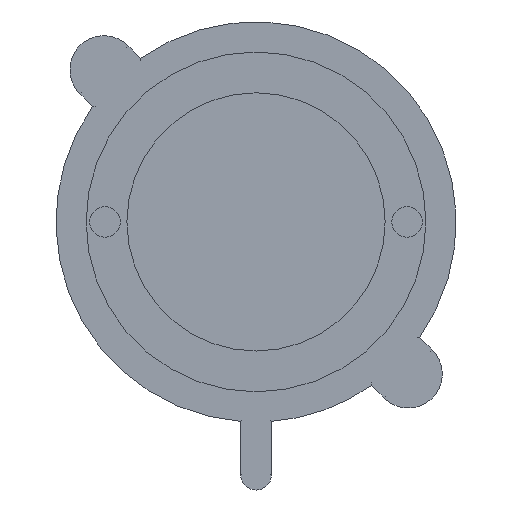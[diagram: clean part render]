
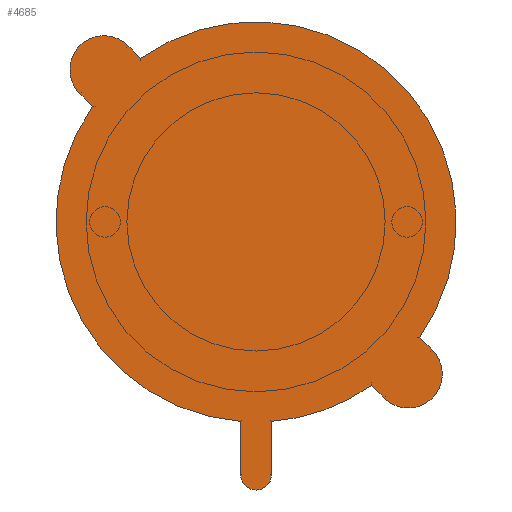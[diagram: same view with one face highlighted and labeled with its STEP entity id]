
A CAD part, top view. The second image highlights one B-rep face of the part: STEP entity #4685.
In plain terms, the highlighted planar face has unit normal (0, 0, 1).
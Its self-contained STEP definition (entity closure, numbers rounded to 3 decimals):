
#1031=LINE('',#20941,#1961);
#1033=LINE('',#20947,#1963);
#1046=LINE('',#21001,#1976);
#1049=LINE('',#21009,#1979);
#1051=LINE('',#21013,#1981);
#1053=LINE('',#21019,#1983);
#1961=VECTOR('',#17218,1.);
#1963=VECTOR('',#17226,1.);
#1976=VECTOR('',#17289,1.);
#1979=VECTOR('',#17298,1.);
#1981=VECTOR('',#17302,1.);
#1983=VECTOR('',#17310,1.);
#3030=FACE_OUTER_BOUND('',#6490,.T.);
#4685=ADVANCED_FACE('',(#3030),#5557,.T.);
#5557=PLANE('',#15811);
#6490=EDGE_LOOP('',(#7743,#7744,#7745,#7746,#7747,#7748,#7749,#7750,#7751,
#7752,#7753,#7754));
#7743=ORIENTED_EDGE('',*,*,#13171,.F.);
#7744=ORIENTED_EDGE('',*,*,#13173,.F.);
#7745=ORIENTED_EDGE('',*,*,#13174,.F.);
#7746=ORIENTED_EDGE('',*,*,#13146,.F.);
#7747=ORIENTED_EDGE('',*,*,#13201,.F.);
#7748=ORIENTED_EDGE('',*,*,#13199,.F.);
#7749=ORIENTED_EDGE('',*,*,#13197,.F.);
#7750=ORIENTED_EDGE('',*,*,#13144,.F.);
#7751=ORIENTED_EDGE('',*,*,#13203,.F.);
#7752=ORIENTED_EDGE('',*,*,#13205,.F.);
#7753=ORIENTED_EDGE('',*,*,#13206,.F.);
#7754=ORIENTED_EDGE('',*,*,#13150,.F.);
#11702=VERTEX_POINT('',#20862);
#11703=VERTEX_POINT('',#20864);
#11704=VERTEX_POINT('',#20871);
#11705=VERTEX_POINT('',#20872);
#11706=VERTEX_POINT('',#20886);
#11707=VERTEX_POINT('',#20888);
#11722=VERTEX_POINT('',#20940);
#11723=VERTEX_POINT('',#20944);
#11740=VERTEX_POINT('',#21002);
#11741=VERTEX_POINT('',#21006);
#11742=VERTEX_POINT('',#21012);
#11743=VERTEX_POINT('',#21016);
#13144=EDGE_CURVE('',#11702,#11703,#15318,.T.);
#13146=EDGE_CURVE('',#11704,#11705,#15319,.T.);
#13150=EDGE_CURVE('',#11706,#11707,#15320,.T.);
#13171=EDGE_CURVE('',#11722,#11706,#1031,.T.);
#13173=EDGE_CURVE('',#11723,#11722,#15333,.T.);
#13174=EDGE_CURVE('',#11705,#11723,#1033,.T.);
#13197=EDGE_CURVE('',#11703,#11740,#1046,.T.);
#13199=EDGE_CURVE('',#11740,#11741,#15344,.T.);
#13201=EDGE_CURVE('',#11741,#11704,#1049,.T.);
#13203=EDGE_CURVE('',#11742,#11702,#1051,.T.);
#13205=EDGE_CURVE('',#11743,#11742,#15345,.T.);
#13206=EDGE_CURVE('',#11707,#11743,#1053,.T.);
#15318=CIRCLE('',#15742,26.5);
#15319=CIRCLE('',#15744,26.5);
#15320=CIRCLE('',#15746,26.5);
#15333=CIRCLE('',#15774,2.05);
#15344=CIRCLE('',#15802,4.5);
#15345=CIRCLE('',#15806,4.5);
#15742=AXIS2_PLACEMENT_3D('',#20863,#17149,#17150);
#15744=AXIS2_PLACEMENT_3D('',#20870,#17153,#17154);
#15746=AXIS2_PLACEMENT_3D('',#20887,#17157,#17158);
#15774=AXIS2_PLACEMENT_3D('',#20945,#17222,#17223);
#15802=AXIS2_PLACEMENT_3D('',#21005,#17293,#17294);
#15806=AXIS2_PLACEMENT_3D('',#21017,#17306,#17307);
#15811=AXIS2_PLACEMENT_3D('',#21023,#17317,#17318);
#17149=DIRECTION('',(0.,0.,-1.));
#17150=DIRECTION('',(1.,0.,0.));
#17153=DIRECTION('',(0.,0.,-1.));
#17154=DIRECTION('',(1.,0.,0.));
#17157=DIRECTION('',(0.,0.,-1.));
#17158=DIRECTION('',(1.,0.,0.));
#17218=DIRECTION('',(0.,1.,0.));
#17222=DIRECTION('',(0.,0.,-1.));
#17223=DIRECTION('',(1.,0.,0.));
#17226=DIRECTION('',(0.,-1.,0.));
#17289=DIRECTION('',(0.707,-0.707,0.));
#17293=DIRECTION('',(0.,0.,-1.));
#17294=DIRECTION('',(1.,0.,0.));
#17298=DIRECTION('',(-0.707,0.707,0.));
#17302=DIRECTION('',(0.707,-0.707,0.));
#17306=DIRECTION('',(0.,0.,-1.));
#17307=DIRECTION('',(1.,0.,0.));
#17310=DIRECTION('',(-0.707,0.707,0.));
#17317=DIRECTION('',(0.,0.,1.));
#17318=DIRECTION('',(1.,0.,0.));
#20862=CARTESIAN_POINT('',(-15.784,20.898,76.));
#20863=CARTESIAN_POINT('',(-0.5,-0.75,76.));
#20864=CARTESIAN_POINT('',(21.148,-16.034,76.));
#20870=CARTESIAN_POINT('',(-0.5,-0.75,76.));
#20871=CARTESIAN_POINT('',(14.784,-22.398,76.));
#20872=CARTESIAN_POINT('',(1.55,-27.171,76.));
#20886=CARTESIAN_POINT('',(-2.55,-27.171,76.));
#20887=CARTESIAN_POINT('',(-0.5,-0.75,76.));
#20888=CARTESIAN_POINT('',(-22.148,14.534,76.));
#20940=CARTESIAN_POINT('',(-2.55,-34.2,76.));
#20941=CARTESIAN_POINT('',(-2.55,-27.205,76.));
#20944=CARTESIAN_POINT('',(1.55,-34.2,76.));
#20945=CARTESIAN_POINT('',(-0.5,-34.2,76.));
#20947=CARTESIAN_POINT('',(1.55,-34.2,76.));
#21001=CARTESIAN_POINT('',(2.682,2.432,76.));
#21002=CARTESIAN_POINT('',(22.835,-17.721,76.));
#21005=CARTESIAN_POINT('',(19.653,-20.903,76.));
#21006=CARTESIAN_POINT('',(16.471,-24.085,76.));
#21009=CARTESIAN_POINT('',(-3.682,-3.932,76.));
#21012=CARTESIAN_POINT('',(-17.471,22.585,76.));
#21013=CARTESIAN_POINT('',(2.682,2.432,76.));
#21016=CARTESIAN_POINT('',(-23.835,16.221,76.));
#21017=CARTESIAN_POINT('',(-20.653,19.403,76.));
#21019=CARTESIAN_POINT('',(-3.682,-3.932,76.));
#21023=CARTESIAN_POINT('',(-0.5,-0.75,76.));
